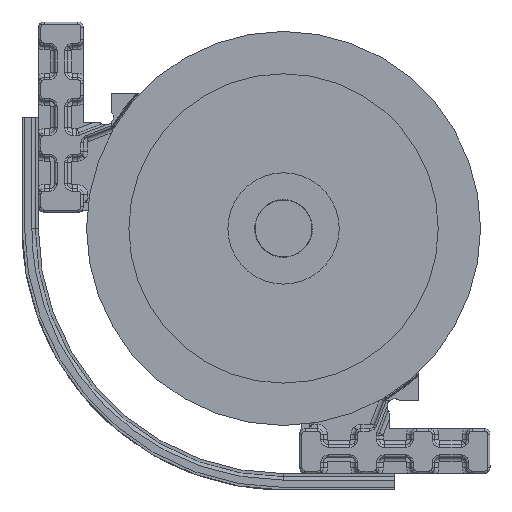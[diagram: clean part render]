
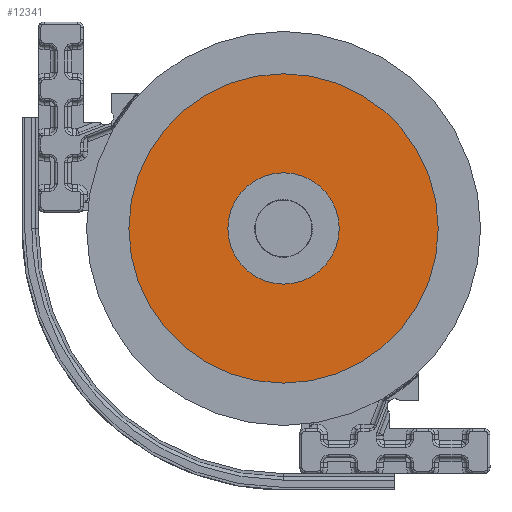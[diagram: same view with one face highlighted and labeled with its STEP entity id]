
A CAD part, front view. The second image highlights one B-rep face of the part: STEP entity #12341.
In plain terms, the highlighted planar face has unit normal (0, -1, 0).
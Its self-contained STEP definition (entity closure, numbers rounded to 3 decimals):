
#9 = CARTESIAN_POINT ( 'NONE',  ( 235., -51.5, -100. ) ) ;
#10 = DIRECTION ( 'NONE',  ( 0., 1., 0. ) ) ;
#11 = DIRECTION ( 'NONE',  ( -1., 0., 0. ) ) ;
#14 = CARTESIAN_POINT ( 'NONE',  ( 235., -51.5, -100. ) ) ;
#15 = DIRECTION ( 'NONE',  ( 0., 1., 0. ) ) ;
#16 = DIRECTION ( 'NONE',  ( -1., 0., 0. ) ) ;
#49 = CARTESIAN_POINT ( 'NONE',  ( 235., -51.5, -100. ) ) ;
#50 = DIRECTION ( 'NONE',  ( 0., 1., 0. ) ) ;
#51 = DIRECTION ( 'NONE',  ( -1., 0., 0. ) ) ;
#52 = CARTESIAN_POINT ( 'NONE',  ( 235., -51.5, -100. ) ) ;
#53 = DIRECTION ( 'NONE',  ( 0., 1., 0. ) ) ;
#54 = DIRECTION ( 'NONE',  ( -1., 0., 0. ) ) ;
#1456 = CARTESIAN_POINT ( 'NONE',  ( 285., -51.5, -100. ) ) ;
#3395 = CARTESIAN_POINT ( 'NONE',  ( 96., -51.5, -100. ) ) ;
#3494 = CARTESIAN_POINT ( 'NONE',  ( 374., -51.5, -100. ) ) ;
#4730 = CARTESIAN_POINT ( 'NONE',  ( 185., -51.5, -100. ) ) ;
#6996 = PLANE ( 'NONE',  #36910 ) ;
#6998 = CARTESIAN_POINT ( 'NONE',  ( 96., -51.5, -100. ) ) ;
#7000 = DIRECTION ( 'NONE',  ( 0., -1., 0. ) ) ;
#7002 = DIRECTION ( 'NONE',  ( 1., 0., 0. ) ) ;
#7051 = EDGE_LOOP ( 'NONE', ( #27968, #27970 ) ) ;
#7054 = EDGE_LOOP ( 'NONE', ( #27972, #27974 ) ) ;
#10229 = AXIS2_PLACEMENT_3D ( 'NONE', #9, #10, #11 ) ;
#10230 = AXIS2_PLACEMENT_3D ( 'NONE', #14, #15, #16 ) ;
#10239 = AXIS2_PLACEMENT_3D ( 'NONE', #49, #50, #51 ) ;
#10240 = AXIS2_PLACEMENT_3D ( 'NONE', #52, #53, #54 ) ;
#12341 = ADVANCED_FACE ( 'NONE', ( #41101, #41102 ), #6996, .T. ) ;
#16601 = CIRCLE ( 'NONE', #10229, 50. ) ;
#16607 = CIRCLE ( 'NONE', #10230, 139. ) ;
#16650 = CIRCLE ( 'NONE', #10239, 139. ) ;
#16653 = CIRCLE ( 'NONE', #10240, 50. ) ;
#27638 = EDGE_CURVE ( 'NONE', #38497, #37071, #16601, .T. ) ;
#27640 = EDGE_CURVE ( 'NONE', #37416, #37482, #16607, .T. ) ;
#27653 = EDGE_CURVE ( 'NONE', #37482, #37416, #16650, .T. ) ;
#27654 = EDGE_CURVE ( 'NONE', #37071, #38497, #16653, .T. ) ;
#27968 = ORIENTED_EDGE ( 'NONE', *, *, #27640, .F. ) ;
#27970 = ORIENTED_EDGE ( 'NONE', *, *, #27653, .F. ) ;
#27972 = ORIENTED_EDGE ( 'NONE', *, *, #27638, .T. ) ;
#27974 = ORIENTED_EDGE ( 'NONE', *, *, #27654, .T. ) ;
#36910 = AXIS2_PLACEMENT_3D ( 'NONE', #6998, #7000, #7002 ) ;
#37071 = VERTEX_POINT ( 'NONE', #1456 ) ;
#37416 = VERTEX_POINT ( 'NONE', #3395 ) ;
#37482 = VERTEX_POINT ( 'NONE', #3494 ) ;
#38497 = VERTEX_POINT ( 'NONE', #4730 ) ;
#41101 = FACE_OUTER_BOUND ( 'NONE', #7051, .T. ) ;
#41102 = FACE_BOUND ( 'NONE', #7054, .T. ) ;
